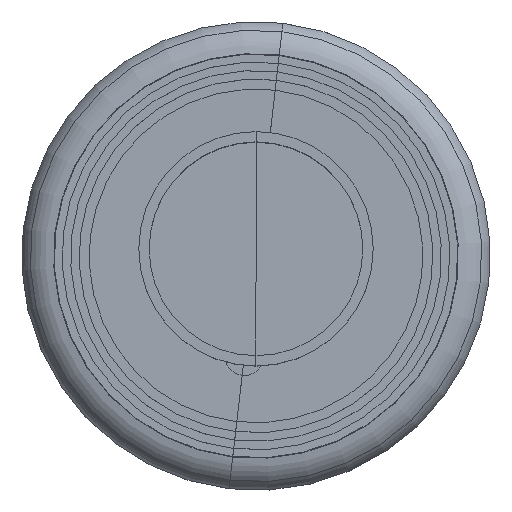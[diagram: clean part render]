
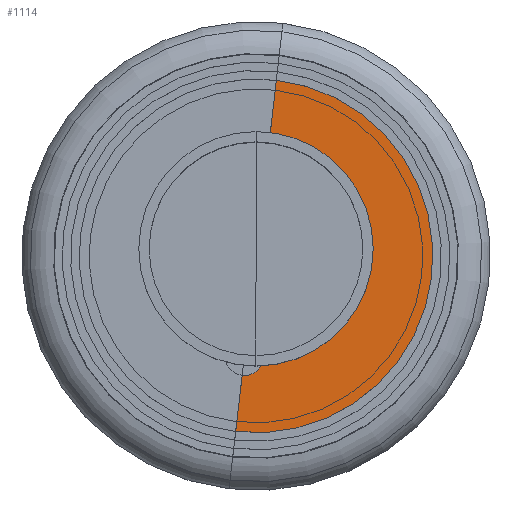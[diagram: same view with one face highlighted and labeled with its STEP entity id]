
A CAD part, top view. The second image highlights one B-rep face of the part: STEP entity #1114.
In plain terms, the highlighted planar face has unit normal (0, 0, 1).
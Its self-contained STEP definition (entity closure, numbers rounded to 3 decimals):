
#64=PLANE('',#1217);
#106=FACE_OUTER_BOUND('',#194,.T.);
#194=EDGE_LOOP('',(#774,#775,#776,#777));
#278=LINE('',#1835,#350);
#279=LINE('',#1838,#351);
#350=VECTOR('',#1426,304.8);
#351=VECTOR('',#1429,304.8);
#422=CIRCLE('',#1218,6.664);
#423=CIRCLE('',#1219,41.5);
#506=VERTEX_POINT('',#1831);
#507=VERTEX_POINT('',#1832);
#508=VERTEX_POINT('',#1834);
#509=VERTEX_POINT('',#1836);
#596=EDGE_CURVE('',#506,#507,#422,.T.);
#597=EDGE_CURVE('',#508,#506,#278,.T.);
#598=EDGE_CURVE('',#509,#508,#423,.T.);
#599=EDGE_CURVE('',#507,#509,#279,.T.);
#774=ORIENTED_EDGE('',*,*,#596,.F.);
#775=ORIENTED_EDGE('',*,*,#597,.F.);
#776=ORIENTED_EDGE('',*,*,#598,.F.);
#777=ORIENTED_EDGE('',*,*,#599,.F.);
#1114=ADVANCED_FACE('',(#106),#64,.T.);
#1217=AXIS2_PLACEMENT_3D('',#1830,#1422,#1423);
#1218=AXIS2_PLACEMENT_3D('',#1833,#1424,#1425);
#1219=AXIS2_PLACEMENT_3D('',#1837,#1427,#1428);
#1422=DIRECTION('center_axis',(0.,0.,1.));
#1423=DIRECTION('ref_axis',(0.,1.,0.));
#1424=DIRECTION('center_axis',(0.,0.,1.));
#1425=DIRECTION('ref_axis',(0.,1.,0.));
#1426=DIRECTION('',(0.,1.,0.));
#1427=DIRECTION('center_axis',(0.,0.,-1.));
#1428=DIRECTION('ref_axis',(0.,1.,0.));
#1429=DIRECTION('',(0.,1.,0.));
#1830=CARTESIAN_POINT('Origin',(0.,0.,15.));
#1831=CARTESIAN_POINT('',(0.,-6.664,15.));
#1832=CARTESIAN_POINT('',(0.,6.664,15.));
#1833=CARTESIAN_POINT('Origin',(0.,0.,15.));
#1834=CARTESIAN_POINT('',(0.,-41.5,15.));
#1835=CARTESIAN_POINT('',(0.,-41.5,15.));
#1836=CARTESIAN_POINT('',(0.,41.5,15.));
#1837=CARTESIAN_POINT('Origin',(0.,0.,15.));
#1838=CARTESIAN_POINT('',(0.,6.664,15.));
